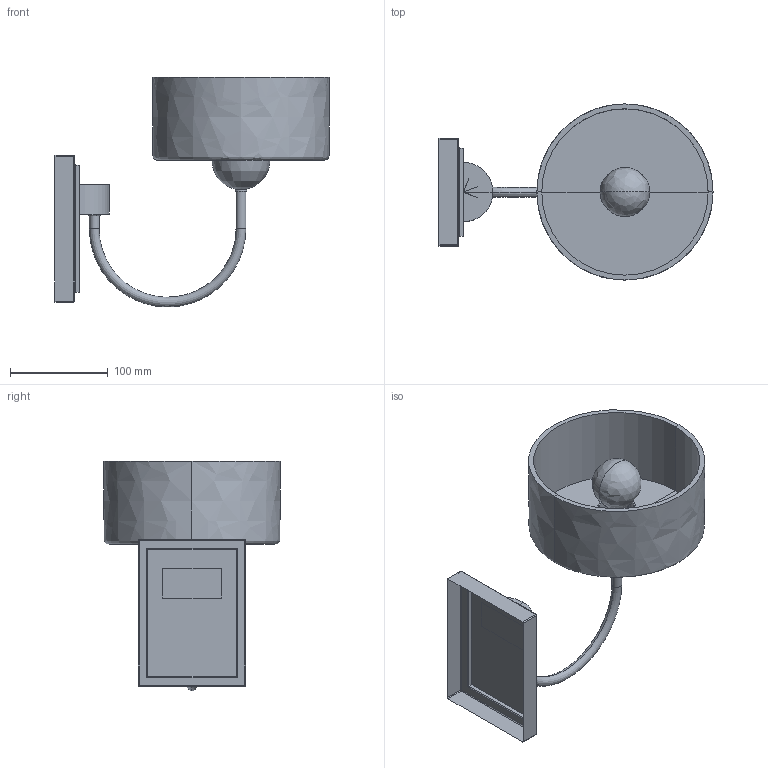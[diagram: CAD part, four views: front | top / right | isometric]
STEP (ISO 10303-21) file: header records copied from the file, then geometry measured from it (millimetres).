
FILE_DESCRIPTION(/* description */ (''),/* implementation_level */ '2;1');
FILE_NAME(/* name */ 'Grevola Wall Lamp',/* time_stamp */ '2026-05-30T09:41:34+08:00',/* author */ (''),/* organization */ (''),/* preprocessor_version */ 'ST-DEVELOPER v19.2',/* originating_system */ 'Rhino 8.25',/* authorisation */ '');
FILE_SCHEMA (('CONFIG_CONTROL_DESIGN'));
Length unit declared in the file: millimetre
Products named in the file (1): Document
Bounding box: 280 x 180 x 235 mm (x, y, z)
Volume: 103976.1 mm3; surface area: 217503.1 mm2
Topology: 5 solids, 12 shells, 164 faces, 351 edges, 179 vertices
Faces by surface type: bspline 112, cylinder 28, plane 24
Entity records: 6768 total; most frequent: CARTESIAN_POINT 4028, ORIENTED_EDGE 630, DIRECTION 366, EDGE_CURVE 329, AXIS2_PLACEMENT_3D 209, VERTEX_POINT 179, EDGE_LOOP 165, ADVANCED_FACE 164
